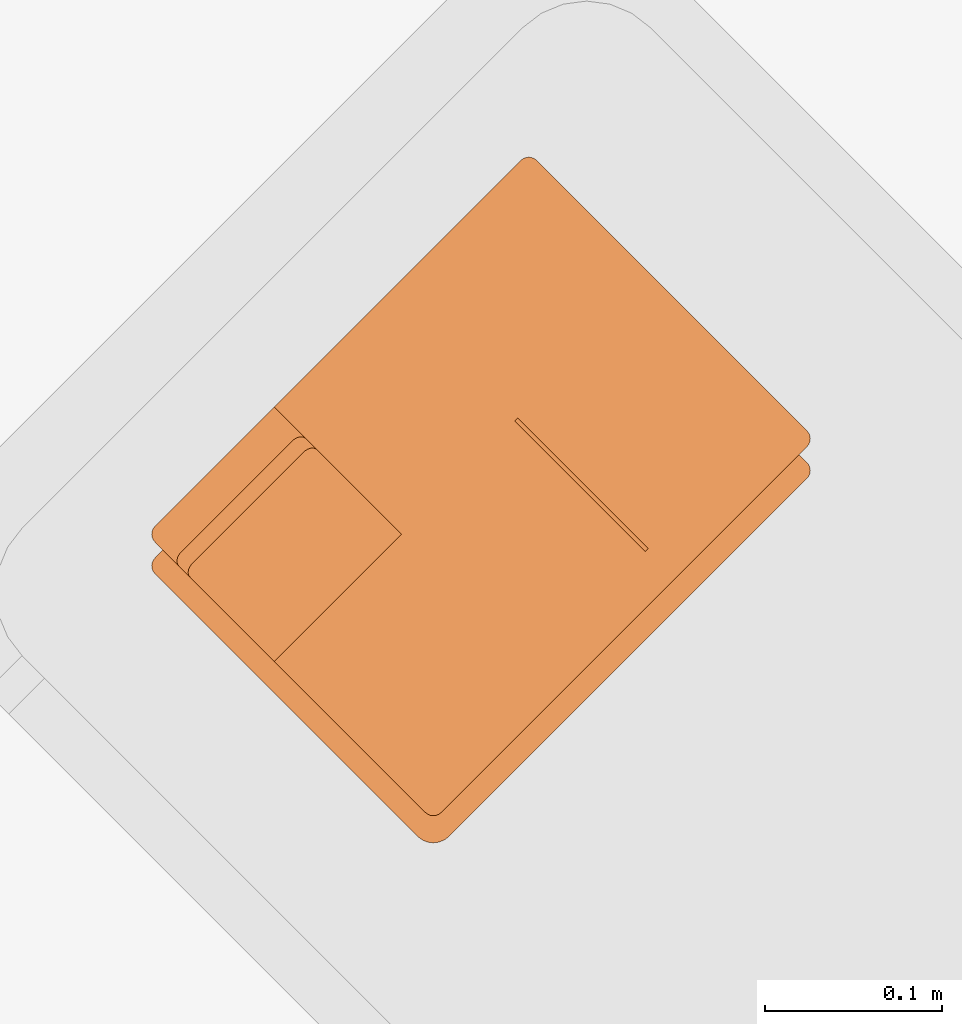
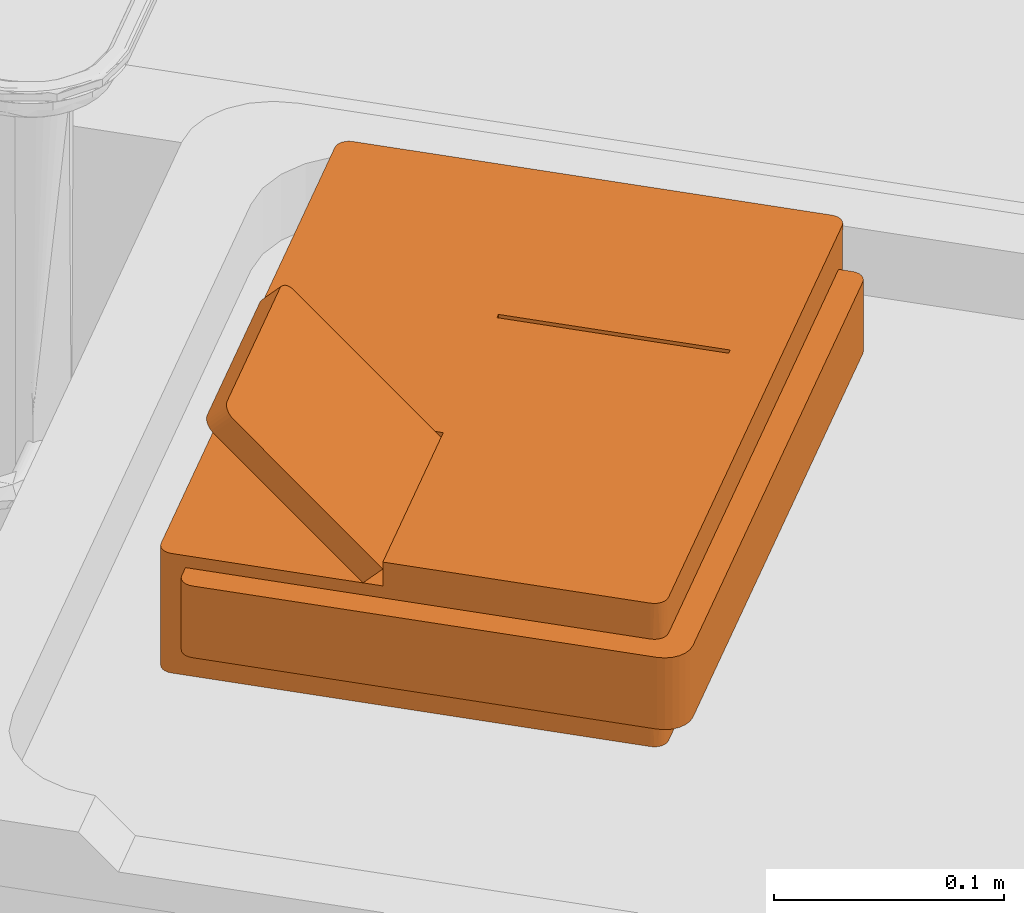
# One storey, part 140 of 142: 1 proxy.
"""IFC2X3 building model written with IfcOpenShell, lengths in feet."""

from ifc_helpers import new_model, entity, si_unit, converted_unit, derived_unit, direction, frame, origin, place, context, subcontext, project, spatial, faceted_brep, source, transform, mapped, type_object, type_shapes, element, save


model = new_model("IFC2X3")

# Units and contexts
model_context = context("Model", 3, precision=0.0001, world=origin(), true_north=direction((6.12303176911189e-17, 1.0)))
body_context = subcontext(model_context, "Body", "Model", "MODEL_VIEW")
ifc_project = project(units=[converted_unit("LENGTHUNIT", "FOOT", entity("IfcRatioMeasure", 0.3048), si_unit("LENGTHUNIT", "METRE"), dimensions=[1, 0, 0, 0, 0, 0, 0]), converted_unit("AREAUNIT", "SQUARE FOOT", entity("IfcRatioMeasure", 0.09290304), si_unit("AREAUNIT", "SQUARE_METRE"), dimensions=[2, 0, 0, 0, 0, 0, 0]), converted_unit("VOLUMEUNIT", "CUBIC FOOT", entity("IfcRatioMeasure", 0.028316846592), si_unit("VOLUMEUNIT", "CUBIC_METRE"), dimensions=[3, 0, 0, 0, 0, 0, 0]), converted_unit("PLANEANGLEUNIT", "DEGREE", entity("IfcRatioMeasure", 0.0174532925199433), si_unit("PLANEANGLEUNIT", "RADIAN"), dimensions=[0, 0, 0, 0, 0, 0, 0]), si_unit("MASSUNIT", "GRAM", prefix="KILO"), derived_unit("MASSDENSITYUNIT", [(si_unit("MASSUNIT", "GRAM", prefix="KILO"), 1), (si_unit("LENGTHUNIT", "METRE"), -3)]), si_unit("TIMEUNIT", "SECOND"), si_unit("FREQUENCYUNIT", "HERTZ"), si_unit("THERMODYNAMICTEMPERATUREUNIT", "DEGREE_CELSIUS"), derived_unit("THERMALTRANSMITTANCEUNIT", [(si_unit("MASSUNIT", "GRAM", prefix="KILO"), 1), (si_unit("THERMODYNAMICTEMPERATUREUNIT", "KELVIN"), -1), (si_unit("TIMEUNIT", "SECOND"), -3)]), derived_unit("VOLUMETRICFLOWRATEUNIT", [(si_unit("LENGTHUNIT", "METRE"), 3), (si_unit("TIMEUNIT", "SECOND"), -1)]), si_unit("ELECTRICCURRENTUNIT", "AMPERE"), si_unit("ELECTRICVOLTAGEUNIT", "VOLT"), si_unit("POWERUNIT", "WATT"), si_unit("FORCEUNIT", "NEWTON"), si_unit("ILLUMINANCEUNIT", "LUX"), si_unit("LUMINOUSFLUXUNIT", "LUMEN"), si_unit("LUMINOUSINTENSITYUNIT", "CANDELA"), derived_unit("USERDEFINED", [(si_unit("MASSUNIT", "GRAM", prefix="KILO"), -1), (si_unit("LENGTHUNIT", "METRE"), -2), (si_unit("TIMEUNIT", "SECOND"), 3), (si_unit("LUMINOUSFLUXUNIT", "LUMEN"), 1)]), derived_unit("LINEARVELOCITYUNIT", [(si_unit("LENGTHUNIT", "METRE"), 1), (si_unit("TIMEUNIT", "SECOND"), -1)]), si_unit("PRESSUREUNIT", "PASCAL"), derived_unit("USERDEFINED", [(si_unit("LENGTHUNIT", "METRE"), -2), (si_unit("MASSUNIT", "GRAM", prefix="KILO"), 1), (si_unit("TIMEUNIT", "SECOND"), -2)])], contexts=[model_context])

# Site, building, storey, space
site_placement = place(None, origin())
site = spatial("IfcSite", under=ifc_project, at=site_placement, Name="Default", CompositionType="ELEMENT")
building_placement = place(site_placement, origin())
building = spatial("IfcBuilding", under=site, at=building_placement, Name="OUTPATIENT / PACT CLINIC (Ch. 265)", CompositionType="ELEMENT")
storey_placement = place(building_placement, origin())
storey = spatial("IfcBuildingStorey", under=building, at=storey_placement, Name="LEVEL 1", CompositionType="ELEMENT", Elevation=0.0)
space_placement = place(storey_placement, origin())
space = spatial("IfcSpace", under=storey, at=space_placement, Name="TRPR1", CompositionType="ELEMENT", InteriorOrExteriorSpace="INTERNAL")

# Proxy
building_element_proxy_type = type_object("IfcBuildingElementProxyType", Name="M7710 - Electrocardiograph, 12 Lead, Portable w-no cart", PredefinedType="NOTDEFINED")
shared_shape = source(origin(), body_context, "Body", "Brep", [
    faceted_brep([(-0.129690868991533, -0.0418194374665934, 0.249999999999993), (0.166666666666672, -0.374999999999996, 0.249999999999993), (0.166666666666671, -0.0416666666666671, 0.249999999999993), (-0.138024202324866, -0.0418194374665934, 0.249999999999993), (-0.129690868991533, 0.300655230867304, 0.249999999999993), (-0.479166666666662, -0.374999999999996, 0.249999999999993), (-0.499999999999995, -0.354166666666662, 0.249999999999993), (-0.499999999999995, 0.354166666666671, 0.249999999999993), (-0.138024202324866, 0.300655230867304, 0.249999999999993), (-0.479166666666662, 0.375000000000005, 0.249999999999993), (-0.484558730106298, 0.374290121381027, 0.249999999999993), (-0.489583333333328, 0.372208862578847, 0.249999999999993), (-0.499290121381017, 0.359558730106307, 0.249999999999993), (-0.484558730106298, -0.374290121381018, 0.249999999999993), (-0.489583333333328, -0.372208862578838, 0.249999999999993), (-0.499290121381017, -0.359558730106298, 0.249999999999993), (-0.493898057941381, -0.368898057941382, 0.249999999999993), (-0.497208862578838, -0.364583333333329, 0.249999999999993), (0.479166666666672, 0.375000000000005, 0.249999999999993), (0.500000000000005, 0.354166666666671, 0.249999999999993), (0.500000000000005, -0.041666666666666, 0.249999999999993), (0.484558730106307, 0.374290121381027, 0.249999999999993), (0.489583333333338, 0.372208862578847, 0.249999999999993), (0.499290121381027, 0.359558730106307, 0.249999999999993), (0.493898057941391, 0.368898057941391, 0.249999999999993), (0.497208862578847, 0.364583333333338, 0.249999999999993), (-0.493898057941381, 0.368898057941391, 0.249999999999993), (-0.497208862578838, 0.364583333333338, 0.249999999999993), (-0.499290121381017, -0.359558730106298, 0.0), (-0.499999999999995, -0.354166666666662, 0.0), (-0.499999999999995, 0.354166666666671, 0.0), (-0.499290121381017, 0.359558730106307, 0.0), (-0.497208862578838, 0.364583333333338, 0.0), (-0.493898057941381, 0.368898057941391, 0.0), (-0.489583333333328, 0.372208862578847, 0.0), (-0.484558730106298, 0.374290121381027, 0.0), (-0.479166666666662, 0.375000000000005, 0.0), (0.479166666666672, 0.375000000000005, 0.0), (0.484558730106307, 0.374290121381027, 0.0), (0.489583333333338, 0.372208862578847, 0.0), (0.493898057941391, 0.368898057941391, 0.0), (0.497208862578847, 0.364583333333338, 0.0), (0.499290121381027, 0.359558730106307, 0.0), (0.500000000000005, 0.354166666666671, 0.0), (0.500000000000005, -0.354166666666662, 0.0), (0.499290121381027, -0.359558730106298, 0.0), (0.497208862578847, -0.364583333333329, 0.0), (0.493898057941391, -0.368898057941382, 0.0), (0.489583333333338, -0.372208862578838, 0.0), (0.484558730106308, -0.374290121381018, 0.0), (0.479166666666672, -0.374999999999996, 0.0), (-0.479166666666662, -0.374999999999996, 0.0), (-0.484558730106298, -0.374290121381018, 0.0), (-0.489583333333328, -0.372208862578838, 0.0), (-0.493898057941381, -0.368898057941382, 0.0), (-0.497208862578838, -0.364583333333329, 0.0), (-0.479166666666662, -0.374999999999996, 0.105662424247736), (0.479166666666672, -0.374999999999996, 0.208333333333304), (0.166666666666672, -0.374999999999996, 0.208333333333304), (-0.499999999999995, 0.354166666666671, 0.10566242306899), (-0.499999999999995, -0.354166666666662, 0.105662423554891), (0.479166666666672, 0.375000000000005, 0.105662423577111), (-0.479166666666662, 0.375000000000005, 0.105662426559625), (0.500000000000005, -0.041666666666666, 0.208333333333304), (0.500000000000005, -0.354166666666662, 0.208333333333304), (0.500000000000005, 0.354166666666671, 0.105662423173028), (-0.49389805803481, -0.368898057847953, 0.130876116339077), (-0.4938980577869, 0.368898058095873, 0.130876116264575), (0.493898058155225, 0.368898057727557, 0.130876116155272), (0.499290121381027, -0.359558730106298, 0.208333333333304), (0.497208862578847, -0.364583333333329, 0.208333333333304), (0.493898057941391, -0.368898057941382, 0.208333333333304), (0.489583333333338, -0.372208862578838, 0.208333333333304), (0.484558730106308, -0.374290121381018, 0.208333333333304), (-0.129690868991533, -0.0418194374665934, 0.18749999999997), (-0.129690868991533, 0.300655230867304, 0.18749999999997), (-0.138024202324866, 0.300655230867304, 0.18749999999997), (-0.138024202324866, -0.0418194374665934, 0.18749999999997), (0.166666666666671, -0.0416666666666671, 0.208333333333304)], [[[0, 1, 2]], [[1, 0, 3]], [[2, 4, 0]], [[3, 5, 1]], [[6, 5, 3]], [[3, 7, 6]], [[8, 7, 3]], [[9, 8, 4]], [[9, 7, 8]], [[9, 10, 7]], [[11, 7, 10]], [[7, 11, 12]], [[13, 5, 6]], [[14, 13, 6]], [[15, 14, 6]], [[16, 14, 15]], [[15, 17, 16]], [[4, 2, 18]], [[18, 2, 19]], [[2, 20, 19]], [[21, 18, 19]], [[21, 19, 22]], [[19, 23, 22]], [[22, 23, 24]], [[25, 24, 23]], [[9, 4, 18]], [[11, 26, 12]], [[12, 26, 27]], [[28, 29, 30, 31, 32, 33, 34, 35, 36, 37, 38, 39, 40, 41, 42, 43, 44, 45, 46, 47, 48, 49, 50, 51, 52, 53, 54, 55]], [[1, 5, 56, 51, 50, 57, 58]], [[7, 59, 30, 29, 60, 6]], [[18, 61, 37, 36, 62, 9]], [[19, 20, 63, 64, 44, 43, 65]], [[52, 56, 53]], [[15, 60, 66]], [[53, 66, 54]], [[66, 14, 16]], [[51, 56, 52]], [[56, 5, 13]], [[56, 13, 66]], [[28, 55, 60]], [[17, 66, 16]], [[54, 66, 55]], [[60, 29, 28]], [[60, 15, 6]], [[66, 17, 15]], [[53, 56, 66]], [[66, 60, 55]], [[14, 66, 13]], [[31, 59, 32]], [[62, 36, 35]], [[62, 10, 9]], [[32, 67, 33]], [[67, 27, 26]], [[30, 59, 31]], [[59, 7, 12]], [[59, 12, 67]], [[35, 34, 62]], [[11, 67, 26]], [[33, 67, 34]], [[10, 62, 67]], [[67, 11, 10]], [[32, 59, 67]], [[67, 62, 34]], [[27, 67, 12]], [[39, 61, 68]], [[23, 65, 68]], [[61, 38, 37]], [[61, 18, 21]], [[39, 38, 61]], [[68, 61, 21]], [[40, 39, 68]], [[22, 24, 68]], [[42, 65, 43]], [[65, 23, 19]], [[65, 41, 68]], [[41, 65, 42]], [[41, 40, 68]], [[25, 68, 24]], [[68, 25, 23]], [[22, 68, 21]], [[45, 44, 64, 69]], [[46, 70, 71, 47]], [[69, 70, 46, 45]], [[49, 48, 72, 73]], [[50, 49, 73, 57]], [[72, 48, 47, 71]], [[74, 75, 76, 77]], [[4, 8, 76, 75]], [[0, 4, 75, 74]], [[3, 0, 74, 77]], [[8, 3, 77, 76]], [[58, 57, 73, 72, 71, 70, 69, 64, 63, 78]], [[2, 1, 58, 78]], [[20, 2, 78, 63]]]),
    faceted_brep([(0.187500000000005, -0.277368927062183, 0.47349837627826), (0.479166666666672, -0.277368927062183, 0.47349837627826), (0.484558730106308, -0.276866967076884, 0.472996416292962), (0.489583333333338, -0.275395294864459, 0.471524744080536), (0.493898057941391, -0.27305420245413, 0.469183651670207), (0.497208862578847, -0.270003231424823, 0.4661326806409), (0.499290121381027, -0.266450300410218, 0.462579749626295), (0.500000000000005, -0.262637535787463, 0.45876698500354), (0.500000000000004, -0.0416666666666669, 0.237796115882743), (0.166666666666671, -0.041666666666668, 0.237796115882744), (0.166666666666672, -0.262637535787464, 0.458766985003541), (0.167376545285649, -0.266450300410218, 0.462579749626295), (0.169457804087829, -0.270003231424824, 0.466132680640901), (0.172768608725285, -0.27305420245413, 0.469183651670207), (0.177083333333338, -0.275395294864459, 0.471524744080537), (0.182107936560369, -0.276866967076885, 0.472996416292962), (0.479166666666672, -0.306831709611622, 0.444035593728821), (0.187500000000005, -0.306831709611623, 0.444035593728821), (0.182107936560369, -0.306329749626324, 0.443533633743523), (0.177083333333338, -0.304858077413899, 0.442061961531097), (0.172768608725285, -0.30251698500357, 0.439720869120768), (0.169457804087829, -0.299466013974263, 0.436669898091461), (0.167376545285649, -0.295913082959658, 0.433116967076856), (0.166666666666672, -0.292100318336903, 0.429304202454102), (0.166666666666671, -0.0711294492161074, 0.208333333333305), (0.500000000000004, -0.0711294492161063, 0.208333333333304), (0.500000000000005, -0.292100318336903, 0.429304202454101), (0.499290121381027, -0.295913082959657, 0.433116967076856), (0.497208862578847, -0.299466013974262, 0.436669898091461), (0.493898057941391, -0.302516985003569, 0.439720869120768), (0.489583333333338, -0.304858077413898, 0.442061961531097), (0.484558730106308, -0.306329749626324, 0.443533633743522)], [[[0, 1, 2, 3, 4, 5, 6, 7, 8, 9, 10, 11, 12, 13, 14, 15]], [[16, 17, 18, 19, 20, 21, 22, 23, 24, 25, 26, 27, 28, 29, 30, 31]], [[24, 9, 8, 25]], [[25, 8, 7, 26]], [[27, 26, 7, 6]], [[28, 27, 6, 5]], [[28, 5, 4, 29]], [[30, 29, 4, 3]], [[31, 30, 3, 2]], [[31, 2, 1, 16]], [[16, 1, 0, 17]], [[23, 10, 9, 24]], [[18, 17, 0, 15]], [[19, 18, 15, 14]], [[19, 14, 13, 20]], [[21, 20, 13, 12]], [[22, 21, 12, 11]], [[22, 11, 10, 23]]]),
    faceted_brep([(0.5, 0.416666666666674, 0.18749999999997), (-0.4375, 0.416666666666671, 0.18749999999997), (-0.442892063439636, 0.415956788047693, 0.18749999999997), (-0.447916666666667, 0.413875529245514, 0.18749999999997), (-0.45223139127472, 0.410564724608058, 0.18749999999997), (-0.455542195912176, 0.406250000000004, 0.18749999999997), (-0.457623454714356, 0.401225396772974, 0.18749999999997), (-0.458333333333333, 0.395833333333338, 0.18749999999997), (-0.458333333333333, 0.375000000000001, 0.18749999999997), (0.479166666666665, 0.375000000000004, 0.18749999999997), (0.484558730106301, 0.374290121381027, 0.18749999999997), (0.489583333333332, 0.372208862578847, 0.18749999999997), (0.493898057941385, 0.368898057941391, 0.18749999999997), (0.497208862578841, 0.364583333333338, 0.18749999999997), (0.499290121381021, 0.359558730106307, 0.18749999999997), (0.499999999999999, 0.354166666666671, 0.18749999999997), (0.5, -0.333333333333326, 0.18749999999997), (0.520833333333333, -0.333333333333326, 0.18749999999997), (0.526225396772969, -0.332623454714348, 0.18749999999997), (0.53125, -0.330542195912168, 0.18749999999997), (0.535564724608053, -0.327231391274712, 0.18749999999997), (0.538875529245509, -0.322916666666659, 0.18749999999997), (0.540956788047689, -0.317892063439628, 0.18749999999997), (0.541666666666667, -0.312499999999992, 0.18749999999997), (0.541666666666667, 0.375000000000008, 0.18749999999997), (0.540246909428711, 0.385784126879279, 0.18749999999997), (0.536084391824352, 0.395833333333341, 0.18749999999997), (0.52946278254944, 0.404462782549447, 0.18749999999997), (0.520833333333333, 0.411084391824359, 0.18749999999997), (0.510784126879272, 0.415246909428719, 0.18749999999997), (0.526225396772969, -0.332623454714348, 0.0624999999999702), (0.520833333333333, -0.333333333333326, 0.0624999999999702), (0.5, -0.333333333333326, 0.0624999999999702), (0.499999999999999, 0.354166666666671, 0.0624999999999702), (0.499290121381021, 0.359558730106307, 0.0624999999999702), (0.497208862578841, 0.364583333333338, 0.0624999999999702), (0.493898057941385, 0.368898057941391, 0.0624999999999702), (0.489583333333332, 0.372208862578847, 0.0624999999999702), (0.484558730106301, 0.374290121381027, 0.0624999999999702), (0.479166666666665, 0.375000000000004, 0.0624999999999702), (-0.458333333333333, 0.375000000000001, 0.0624999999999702), (-0.458333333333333, 0.395833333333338, 0.0624999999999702), (-0.457623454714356, 0.401225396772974, 0.0624999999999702), (-0.455542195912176, 0.406250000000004, 0.0624999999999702), (-0.45223139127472, 0.410564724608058, 0.0624999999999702), (-0.447916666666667, 0.413875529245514, 0.0624999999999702), (-0.442892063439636, 0.415956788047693, 0.0624999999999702), (-0.4375, 0.416666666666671, 0.0624999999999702), (0.5, 0.416666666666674, 0.0624999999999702), (0.510784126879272, 0.415246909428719, 0.0624999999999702), (0.520833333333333, 0.411084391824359, 0.0624999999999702), (0.52946278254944, 0.404462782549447, 0.0624999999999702), (0.536084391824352, 0.395833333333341, 0.0624999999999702), (0.540246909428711, 0.385784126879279, 0.0624999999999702), (0.541666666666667, 0.375000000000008, 0.0624999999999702), (0.541666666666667, -0.312499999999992, 0.0624999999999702), (0.540956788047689, -0.317892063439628, 0.0624999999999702), (0.538875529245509, -0.322916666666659, 0.0624999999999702), (0.535564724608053, -0.327231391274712, 0.0624999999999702), (0.53125, -0.330542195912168, 0.0624999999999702)], [[[0, 1, 2, 3, 4, 5, 6, 7, 8, 9, 10, 11, 12, 13, 14, 15, 16, 17, 18, 19, 20, 21, 22, 23, 24, 25, 26, 27, 28, 29]], [[30, 31, 32, 33, 34, 35, 36, 37, 38, 39, 40, 41, 42, 43, 44, 45, 46, 47, 48, 49, 50, 51, 52, 53, 54, 55, 56, 57, 58, 59]], [[47, 1, 0, 48]], [[54, 24, 23, 55]], [[32, 31, 17, 16]], [[32, 16, 15, 33]], [[39, 9, 8, 40]], [[40, 8, 7, 41]], [[49, 48, 0, 29]], [[50, 49, 29, 28]], [[50, 28, 27, 51]], [[52, 51, 27, 26]], [[53, 52, 26, 25]], [[53, 25, 24, 54]], [[42, 41, 7, 6]], [[43, 42, 6, 5]], [[43, 5, 4, 44]], [[45, 44, 4, 3]], [[46, 45, 3, 2]], [[46, 2, 1, 47]], [[56, 55, 23, 22]], [[57, 56, 22, 21]], [[57, 21, 20, 58]], [[59, 58, 20, 19]], [[30, 59, 19, 18]], [[30, 18, 17, 31]], [[33, 15, 14, 34]], [[34, 14, 13, 35]], [[35, 13, 12, 36]], [[37, 11, 10, 38]], [[38, 10, 9, 39]], [[36, 12, 11, 37]]]),
])
type_shapes(building_element_proxy_type, [shared_shape])
proxy_placement = place(space_placement, frame((394.120359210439, -939.695708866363, 3.5), z_axis=(0.0, 0.0, 1.0), x_axis=(-0.707106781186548, -0.707106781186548, 0.0)))
element("IfcBuildingElementProxy", 1, at=proxy_placement, inside=space, type_object=building_element_proxy_type, Name="M7710 - Electrocardiograph, 12 Lead, Portable w-no cart1:M7710 - Electrocardiograph, 12 Lead, Portable w-no cart", ObjectType="M7710 - Electrocardiograph, 12 Lead, Portable w-no cart", context=body_context, shape_type="MappedRepresentation", body=[
    mapped(shared_shape, transform((0.0, 0.0, 0.0), scale=1.0)),
])

save(model, "model.ifc")
